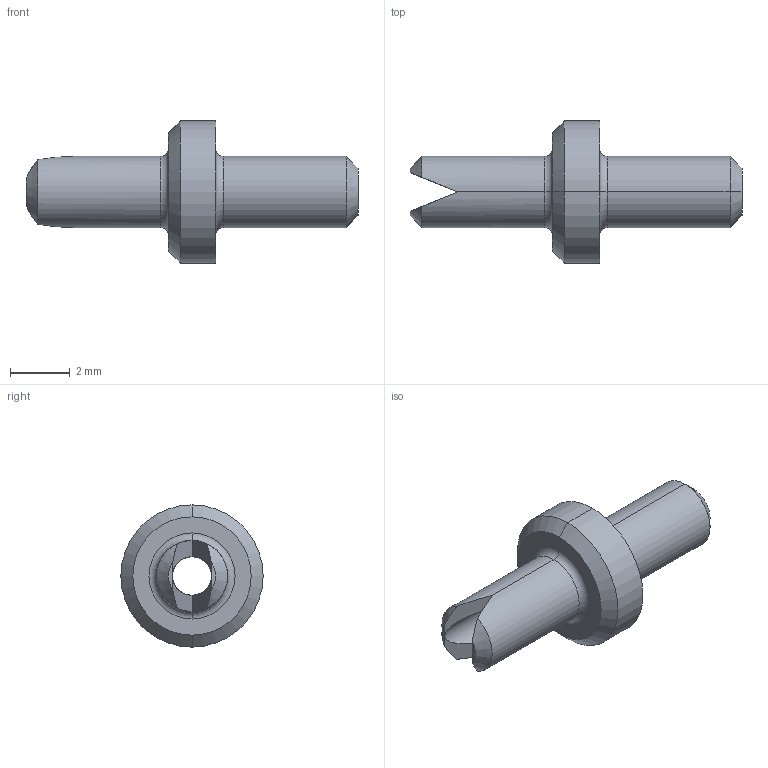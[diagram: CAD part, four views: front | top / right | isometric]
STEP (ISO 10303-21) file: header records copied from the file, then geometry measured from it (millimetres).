
FILE_DESCRIPTION(/* description */ ('SolidWorks IGES file using analytic representation for surfaces '),/* implementation_level */ '2;1');
FILE_NAME(/* name */ 'K:\Normteile INVENTOR\Air-Logic\Orifice restrictors\F-2815-051.IGS.ipt.stp',/* time_stamp */ '2020-05-27T10:45:56+02:00',/* author */ ('cad'),/* organization */ (''),/* preprocessor_version */ 'ST-DEVELOPER v18',/* originating_system */ 'Autodesk Inventor 2020',/* authorisation */ '');
FILE_SCHEMA (('AUTOMOTIVE_DESIGN { 1 0 10303 214 3 1 1 }'));
Length unit declared in the file: millimetre
Products named in the file (1): F-2815-051.IGS
Bounding box: 11.11 x 4.76 x 4.76 mm (x, y, z)
Surface area: 162.4 mm2 (no closed solid volume)
Topology: 0 solids, 27 shells, 27 faces, 108 edges, 108 vertices
Faces by surface type: plane 9, cylinder 8, cone 6, torus 4
Entity records: 1740 total; most frequent: CARTESIAN_POINT 796, DIRECTION 190, VERTEX_POINT 108, EDGE_CURVE 108, ORIENTED_EDGE 108, AXIS2_PLACEMENT_3D 78, CIRCLE 50, LINE 34
